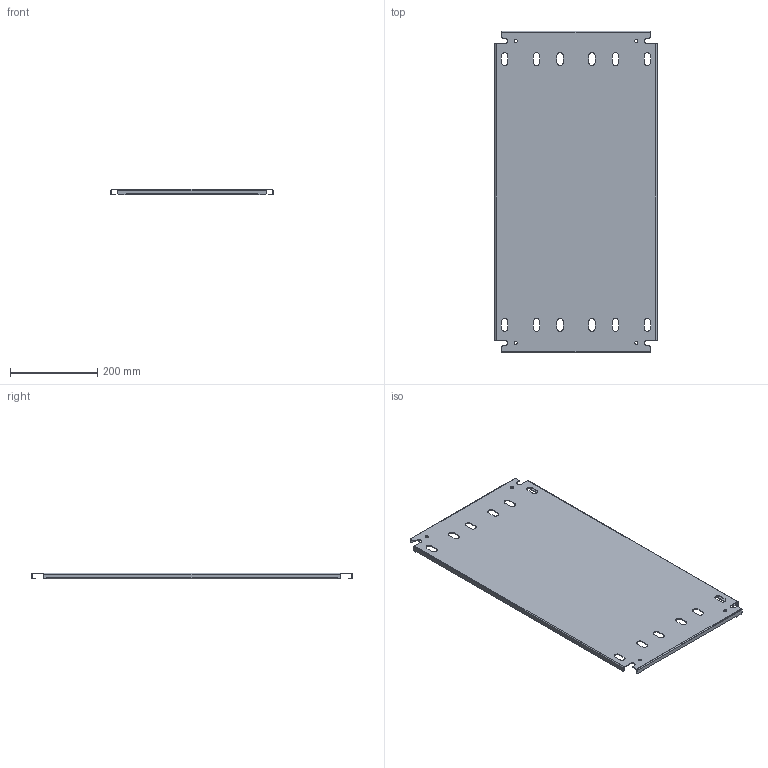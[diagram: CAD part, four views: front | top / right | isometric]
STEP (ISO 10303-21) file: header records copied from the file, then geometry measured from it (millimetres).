
FILE_DESCRIPTION(/* description */ ('1412BTSSCU 14.625" x 29" Inner Panel'),/* implementation_level */ '2;1');
FILE_NAME(/* name */ 'C:\Vault_Workspace\Inventor_Dwg\BoxCad\Result\1412BTSSCU04203DT\e-mail\3D\1412BTSSCU04203DTIP1.stp',/* time_stamp */ '2022-10-28T16:20:04-04:00',/* author */ ('BoxCad'),/* organization */ (''),/* preprocessor_version */ 'ST-DEVELOPER v18.1',/* originating_system */ 'Autodesk Inventor 2020',/* authorisation */ '');
FILE_SCHEMA (('AUTOMOTIVE_DESIGN { 1 0 10303 214 3 1 1 }'));
Length unit declared in the file: inch
Products named in the file (2): 1412BTSSCU04203DTIP1; 1412BTSSCU04203DTIP1-P
Assembly tree (1 placements, depth 2):
  1412BTSSCU04203DTIP1
    1412BTSSCU04203DTIP1-P
Bounding box: 371.48 x 736.6 x 13 mm (x, y, z)
Volume: 524643.8 mm3; surface area: 613487 mm2
Topology: 1 solids, 1 shells, 158 faces, 468 edges, 312 vertices
Faces by surface type: plane 90, cylinder 68
Full cylindrical faces by diameter (mm): 7.366 x4
Entity records: 5441 total; most frequent: CARTESIAN_POINT 941, ORIENTED_EDGE 936, DIRECTION 926, EDGE_CURVE 468, LINE 332, VECTOR 332, VERTEX_POINT 312, AXIS2_PLACEMENT_3D 297
